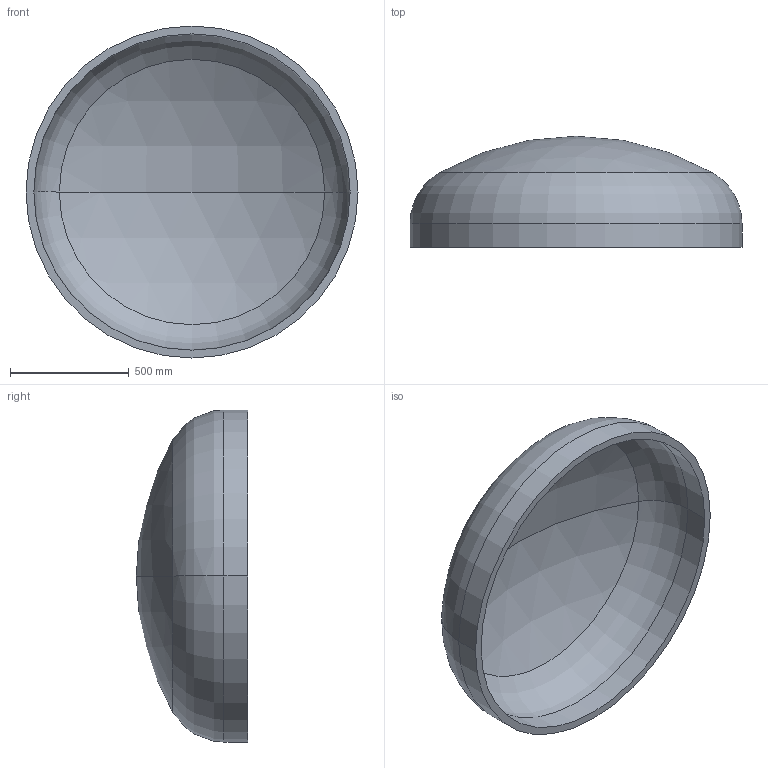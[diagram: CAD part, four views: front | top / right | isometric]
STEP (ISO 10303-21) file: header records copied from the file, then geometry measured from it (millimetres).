
FILE_DESCRIPTION (( 'STEP AP203' ), '1' );
FILE_NAME ('DIN 28013 Korbbogenform_-_Boden DIN 28013 - 1400 x 100 - I - s=33.step', '2016-07-01T10:15:12', ( '' ), ( '' ), 'SwSTEP 2.0', 'SolidWorks 2013', '' );
FILE_SCHEMA (( 'CONFIG_CONTROL_DESIGN' ));
Length unit declared in the file: millimetre
Products named in the file (1): DIN 28013 Korbbogenform_-_Boden DIN 28013 - 1400 x 100 - I - s=33
Bounding box: 1400 x 468.96 x 1400 mm (x, y, z)
Volume: 82346601.6 mm3; surface area: 5134702.8 mm2
Topology: 1 solids, 1 shells, 13 faces, 24 edges, 14 vertices
Faces by surface type: torus 4, cylinder 4, sphere 4, plane 1
Entity records: 407 total; most frequent: DIRECTION 72, CARTESIAN_POINT 52, ORIENTED_EDGE 48, AXIS2_PLACEMENT_3D 34, EDGE_CURVE 24, CIRCLE 20, EDGE_LOOP 14, VERTEX_POINT 14
